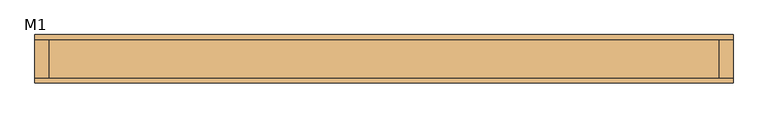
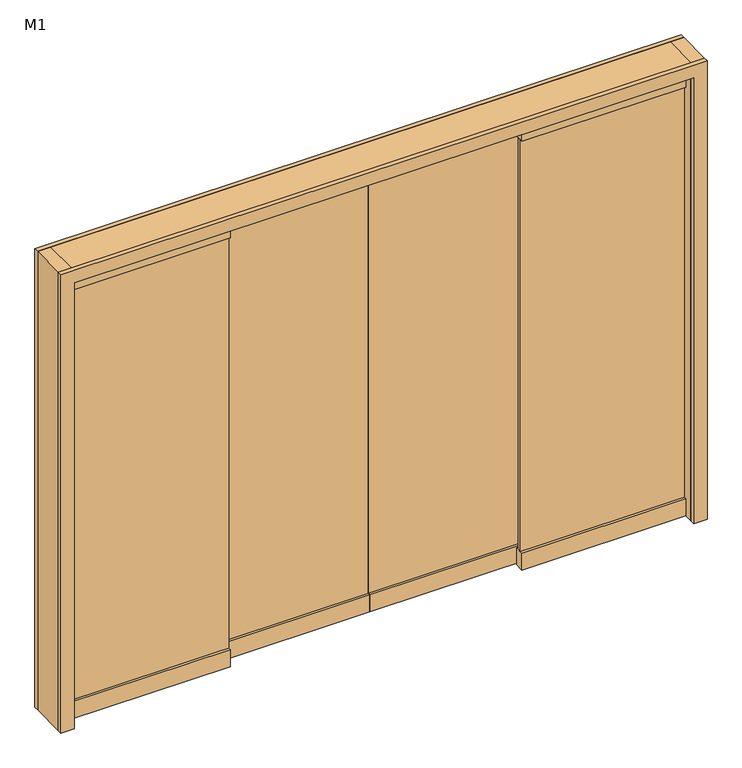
"""IFC4 building model written with IfcOpenShell, lengths in millimetres: door geometry, 四扇推拉门 3 : M1."""

import ifcopenshell
import ifcopenshell.guid

model = None  # the IFC model being written
_history = None  # IfcOwnerHistory: only IFC2X3 demands one
_inside = {}  # id of a spatial element -> (the spatial element, [elements in it])
_under = {}  # id of a project, library or spatial element -> (it, [spatial elements below it])
_declared = {}  # id of a project -> (the project, [libraries it declares])
_typed = {}  # id of a type object -> (the type object, [elements of that type])
_made_of = {}  # id of a material, layer set ... -> (it, [elements and type objects made of it])


def new_model(schema):
    """Start an empty IFC model of exactly this schema.

    Asked for "IFC4X3", IfcOpenShell would pick the latest addendum, in which some entities
    have other attributes; the version numbers below select the first issue.
    IFC2X3 requires an IfcOwnerHistory on every rooted entity: one is made here for all.
    """
    global model, _history
    if schema == "IFC4X3":
        model = ifcopenshell.file(schema_version=(4, 3, 0, 0))
    else:
        model = ifcopenshell.file(schema=schema)
    _inside.clear()
    _under.clear()
    _declared.clear()
    _typed.clear()
    _made_of.clear()
    _history = None
    if model.schema == "IFC2X3":
        org = make("IfcOrganization", Name="unknown")
        user = make(
            "IfcPersonAndOrganization",
            ThePerson=make("IfcPerson", FamilyName="unknown"),
            TheOrganization=org,
        )
        app = make(
            "IfcApplication",
            ApplicationDeveloper=org,
            Version="unknown",
            ApplicationFullName="unknown",
            ApplicationIdentifier="unknown",
        )
        _history = make(
            "IfcOwnerHistory",
            OwningUser=user,
            OwningApplication=app,
            ChangeAction="ADDED",
            CreationDate=0,
        )
    return model


def make(cls, **values):
    """One entity of the class cls with the attributes given. An attribute that is None is left unset."""
    return model.create_entity(
        cls, **{name: value for name, value in values.items() if value is not None}
    )


def rooted(cls, **values):
    """An entity with a GlobalId (a new one), such as an element, a storey or a relation."""
    return make(cls, GlobalId=ifcopenshell.guid.new(), OwnerHistory=_history, **values)


def si_unit(unit_type, name, prefix=None):
    """IfcSIUnit, for example si_unit("LENGTHUNIT", "METRE", prefix="MILLI")."""
    return make("IfcSIUnit", UnitType=unit_type, Prefix=prefix, Name=name)


def assignment(units):
    """IfcUnitAssignment: the units of a project."""
    return None if units is None else make("IfcUnitAssignment", Units=units)


def point(xyz):
    """IfcCartesianPoint."""
    return None if xyz is None else make("IfcCartesianPoint", Coordinates=xyz)


def direction(xyz):
    """IfcDirection."""
    return None if xyz is None else make("IfcDirection", DirectionRatios=xyz)


def frame(location, z_axis=None, x_axis=None):
    """IfcAxis2Placement3D, a coordinate frame: its origin and axes. An axis left out is left unset."""
    return make(
        "IfcAxis2Placement3D",
        Location=point(location),
        Axis=direction(z_axis),
        RefDirection=direction(x_axis),
    )


def origin():
    """The frame at (0, 0, 0) with its axes left unset."""
    return frame((0.0, 0.0, 0.0))


def origin_with_axes():
    """The frame at (0, 0, 0) with the z axis (0, 0, 1) and the x axis (1, 0, 0) written out."""
    return frame((0.0, 0.0, 0.0), z_axis=(0.0, 0.0, 1.0), x_axis=(1.0, 0.0, 0.0))


def place(relative_to, where):
    """IfcLocalPlacement: puts the frame where relative to a parent placement (None: the world)."""
    return make(
        "IfcLocalPlacement", PlacementRelTo=relative_to, RelativePlacement=where
    )


def context(
    kind, dimensions, precision=None, world=None, true_north=None, identifier=None
):
    """IfcGeometricRepresentationContext, for example the 3D "Model" context."""
    return make(
        "IfcGeometricRepresentationContext",
        ContextIdentifier=identifier,
        ContextType=kind,
        CoordinateSpaceDimension=dimensions,
        Precision=precision,
        WorldCoordinateSystem=world,
        TrueNorth=true_north,
    )


def project(units=None, contexts=None):
    """IfcProject with its units and contexts."""
    return rooted(
        "IfcProject",
        Name="project",
        RepresentationContexts=contexts,
        UnitsInContext=assignment(units),
    )


def spatial(cls, under=None, at=None, **own):
    """A site, building, storey or space (cls), placed at a placement, below another one or the project."""
    s = rooted(cls, ObjectPlacement=at, **own)
    if under is not None:
        _under.setdefault(under.id(), (under, []))[1].append(s)
    return s


def polyline(points):
    """IfcPolyline through the points."""
    return make("IfcPolyline", Points=[point(p) for p in points])


def outline(outer, holes=None, kind="AREA"):
    """IfcArbitraryClosedProfileDef: a profile drawn as a closed curve; with holes, ...WithVoids."""
    if holes is None:
        return make("IfcArbitraryClosedProfileDef", ProfileType=kind, OuterCurve=outer)
    return make(
        "IfcArbitraryProfileDefWithVoids",
        ProfileType=kind,
        OuterCurve=outer,
        InnerCurves=holes,
    )


def extrude(swept, where, along, depth):
    """IfcExtrudedAreaSolid: the profile swept, set in the frame where, extruded along a direction by depth."""
    return make(
        "IfcExtrudedAreaSolid",
        SweptArea=swept,
        Position=where,
        ExtrudedDirection=direction(along),
        Depth=depth,
    )


def shape(context_of_items, identifier, shape_type, items):
    """IfcShapeRepresentation: the items that make up one representation, for example the "Body"."""
    return make(
        "IfcShapeRepresentation",
        ContextOfItems=context_of_items,
        RepresentationIdentifier=identifier,
        RepresentationType=shape_type,
        Items=items,
    )


def source(mapping_origin, context_of_items, identifier, shape_type, items):
    """IfcRepresentationMap: a shape defined once, which mapped items show again and again."""
    return make(
        "IfcRepresentationMap",
        MappingOrigin=mapping_origin,
        MappedRepresentation=shape(context_of_items, identifier, shape_type, items),
    )


def transform(
    local_origin,
    x_axis=None,
    y_axis=None,
    z_axis=None,
    scale=None,
    scale2=None,
    scale3=None,
    uniform=True,
):
    """IfcCartesianTransformationOperator3D, or its non-uniform kind. x_axis, y_axis, z_axis: its Axis1, 2, 3."""
    if uniform:
        return make(
            "IfcCartesianTransformationOperator3D",
            Axis1=direction(x_axis),
            Axis2=direction(y_axis),
            LocalOrigin=point(local_origin),
            Scale=scale,
            Axis3=direction(z_axis),
        )
    return make(
        "IfcCartesianTransformationOperator3DnonUniform",
        Axis1=direction(x_axis),
        Axis2=direction(y_axis),
        LocalOrigin=point(local_origin),
        Scale=scale,
        Axis3=direction(z_axis),
        Scale2=scale2,
        Scale3=scale3,
    )


def mapped(mapping_source, mapping_target):
    """IfcMappedItem: shows the shape of a source again, moved by a transform."""
    return make(
        "IfcMappedItem", MappingSource=mapping_source, MappingTarget=mapping_target
    )


def made_of(thing, what):
    """Note that an element or type object is made of a material, layer set ...; save() writes the relation."""
    if what is not None:
        _made_of.setdefault(what.id(), (what, []))[1].append(thing)
    return thing


def element(
    cls,
    number,
    at=None,
    inside=None,
    cuts=None,
    type_object=None,
    material=None,
    context=None,
    identifier="Body",
    shape_type=None,
    held_by="IfcProductDefinitionShape",
    body=None,
    shapes=None,
    **own,
):
    """One element of the class cls, such as IfcWall. Its Tag is "e" and its number.

    at: its placement. inside: the storey or other place that contains it. cuts: it is an
    opening in that element (IfcRelVoidsElement). A single representation is given by context,
    identifier, shape_type and body (its items); several are given by shapes. held_by: the class
    of the entity that holds the representations. save() writes the other relations.
    """
    e = rooted(cls, Tag="e%d" % number, ObjectPlacement=at, **own)
    if body is not None:
        shapes = [shape(context, identifier, shape_type, body)]
    if shapes is not None:
        e.Representation = make(held_by, Representations=shapes)
    if inside is not None:
        _inside.setdefault(inside.id(), (inside, []))[1].append(e)
    if cuts is not None:
        rooted(
            "IfcRelVoidsElement", RelatingBuildingElement=cuts, RelatedOpeningElement=e
        )
    if type_object is not None:
        _typed.setdefault(type_object.id(), (type_object, []))[1].append(e)
    return made_of(e, material)


def aggregate(whole, parts):
    """IfcRelAggregates: a whole, such as a stair, and the parts it consists of."""
    return rooted("IfcRelAggregates", RelatingObject=whole, RelatedObjects=parts)


def save(model, path):
    """Write the relations noted so far, then the file.

    IfcRelAggregates (storeys below a building ...), IfcRelContainedInSpatialStructure (elements
    in a storey), IfcRelDefinesByType, IfcRelAssociatesMaterial and IfcRelDeclares: one each for
    every whole, place, type object, material and project.
    """
    for whole, parts in _under.values():
        aggregate(whole, parts)
    for where, things in _inside.values():
        rooted(
            "IfcRelContainedInSpatialStructure",
            RelatedElements=things,
            RelatingStructure=where,
        )
    for kind, things in _typed.values():
        rooted("IfcRelDefinesByType", RelatedObjects=things, RelatingType=kind)
    for what, things in _made_of.values():
        rooted("IfcRelAssociatesMaterial", RelatedObjects=things, RelatingMaterial=what)
    for by, libraries in _declared.values():
        rooted("IfcRelDeclares", RelatingContext=by, RelatedDefinitions=libraries)
    model.write(path)


def m1_8058bb6d(model_context):
    return source(origin(), model_context, "Body", "SweptSolid", [
        extrude(outline(polyline([(2625.0, -675.0), (2625.0, 2775.0), (0.0, 2775.0), (0.0, 2850.0), (2700.0, 2850.0), (2700.0, -750.0), (0.0, -750.0), (0.0, -675.0), (2625.0, -675.0)])), frame((0.0, 100.0, 0.0), z_axis=(0.0, 1.0, 0.0), x_axis=(0.0, 0.0, 1.0)), (0.0, 0.0, 1.0), 25.0),
        extrude(outline(polyline([(2700.0, -750.0), (0.0, -750.0), (0.0, -675.0), (2625.0, -675.0), (2625.0, 2775.0), (0.0, 2775.0), (0.0, 2850.0), (2700.0, 2850.0), (2700.0, -750.0)])), frame((0.0, -125.0, 0.0), z_axis=(0.0, 1.0, 0.0), x_axis=(0.0, 0.0, 1.0)), (0.0, 0.0, 1.0), 25.0),
        extrude(outline(polyline([(2775.0, -49.3757021), (1862.5, -49.3757021), (1862.5, 0.0), (2775.0, 0.0), (2775.0, -49.3757021)])), origin_with_axes(), (0.0, 0.0, 1.0), 100.0),
        extrude(outline(polyline([(2775.0, -49.3757021), (1862.5, -49.3757021), (1862.5, 0.0), (2775.0, 0.0), (2775.0, -49.3757021)])), frame((0.0, 0.0, 2525.0), z_axis=(0.0, 0.0, 1.0), x_axis=(1.0, 0.0, 0.0)), (0.0, 0.0, 1.0), 100.0),
        extrude(outline(polyline([(1862.5, -15.0), (2775.0, -15.0), (2775.0, -35.0), (1862.5, -35.0), (1862.5, -15.0)])), frame((0.0, 0.0, 100.0), z_axis=(0.0, 0.0, 1.0), x_axis=(1.0, 0.0, 0.0)), (0.0, 0.0, 1.0), 2425.0),
        extrude(outline(polyline([(1962.5, 47.5), (1962.5, 27.5), (1050.0, 27.5), (1050.0, 47.5), (1962.5, 47.5)])), frame((0.0, 0.0, 100.0), z_axis=(0.0, 0.0, 1.0), x_axis=(1.0, 0.0, 0.0)), (0.0, 0.0, 1.0), 2425.0),
        extrude(outline(polyline([(1962.5, 12.5368256), (1050.0, 12.5368256), (1050.0, 61.9125276), (1962.5, 61.9125276), (1962.5, 12.5368256)])), origin_with_axes(), (0.0, 0.0, 1.0), 100.0),
        extrude(outline(polyline([(1962.5, 12.5368256), (1050.0, 12.5368256), (1050.0, 61.9125276), (1962.5, 61.9125276), (1962.5, 12.5368256)])), frame((0.0, 0.0, 2525.0), z_axis=(0.0, 0.0, 1.0), x_axis=(1.0, 0.0, 0.0)), (0.0, 0.0, 1.0), 100.0),
        extrude(outline(polyline([(237.5, -49.3757021), (-675.0, -49.3757021), (-675.0, 0.0), (237.5, 0.0), (237.5, -49.3757021)])), origin_with_axes(), (0.0, 0.0, 1.0), 100.0),
        extrude(outline(polyline([(237.5, -49.3757021), (-675.0, -49.3757021), (-675.0, 0.0), (237.5, 0.0), (237.5, -49.3757021)])), frame((0.0, 0.0, 2525.0), z_axis=(0.0, 0.0, 1.0), x_axis=(1.0, 0.0, 0.0)), (0.0, 0.0, 1.0), 100.0),
        extrude(outline(polyline([(237.5, -15.0), (237.5, -35.0), (-675.0, -35.0), (-675.0, -15.0), (237.5, -15.0)])), frame((0.0, 0.0, 100.0), z_axis=(0.0, 0.0, 1.0), x_axis=(1.0, 0.0, 0.0)), (0.0, 0.0, 1.0), 2425.0),
        extrude(outline(polyline([(1050.0, 12.5368256), (137.5, 12.5368256), (137.5, 61.9125276), (1050.0, 61.9125276), (1050.0, 12.5368256)])), origin_with_axes(), (0.0, 0.0, 1.0), 100.0),
        extrude(outline(polyline([(1050.0, 12.5368256), (137.5, 12.5368256), (137.5, 61.9125276), (1050.0, 61.9125276), (1050.0, 12.5368256)])), frame((0.0, 0.0, 2525.0), z_axis=(0.0, 0.0, 1.0), x_axis=(1.0, 0.0, 0.0)), (0.0, 0.0, 1.0), 100.0),
        extrude(outline(polyline([(1050.0, 47.5), (1050.0, 27.5), (137.5, 27.5), (137.5, 47.5), (1050.0, 47.5)])), frame((0.0, 0.0, 100.0), z_axis=(0.0, 0.0, 1.0), x_axis=(1.0, 0.0, 0.0)), (0.0, 0.0, 1.0), 2425.0),
        extrude(outline(polyline([(2700.0, 2775.0), (2700.0, -675.0), (2700.0, -750.0), (0.0, -750.0), (0.0, -675.0), (2625.0, -675.0), (2625.0, 2775.0), (0.0, 2775.0), (0.0, 2850.0), (2700.0, 2850.0), (2700.0, 2775.0)])), frame((0.0, -100.0, 0.0), z_axis=(0.0, 1.0, 0.0), x_axis=(0.0, 0.0, 1.0)), (0.0, 0.0, 1.0), 200.0),
    ])


if __name__ == "__main__":
    model = new_model("IFC4")
    model_context = context("Model", 3, world=origin())
    ifc_project = project(units=[si_unit("LENGTHUNIT", "METRE", prefix="MILLI")], contexts=[model_context])
    site = spatial("IfcSite", under=ifc_project)
    building = spatial("IfcBuilding", under=site)
    placement = place(None, origin())
    m1_shape = m1_8058bb6d(model_context)
    element("IfcDoor", 1, ObjectType="四扇推拉门 3 : M1", at=placement, inside=building, context=model_context, shape_type="MappedRepresentation", body=[
        mapped(m1_shape, transform((0.0, 0.0, 0.0), x_axis=(1.0, 0.0, 0.0), y_axis=(0.0, 1.0, 0.0), z_axis=(0.0, 0.0, 1.0))),
    ])
    save(model, "model.ifc")
